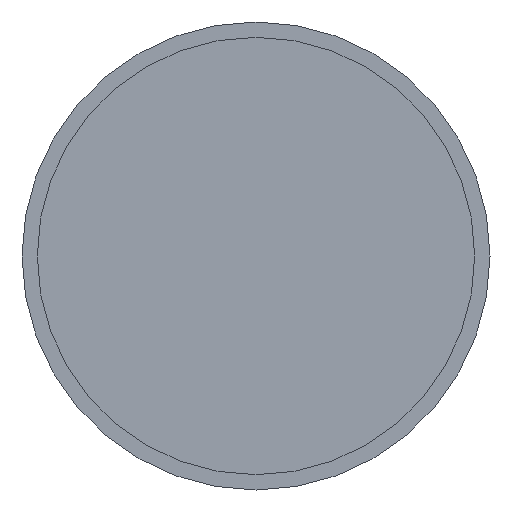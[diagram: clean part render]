
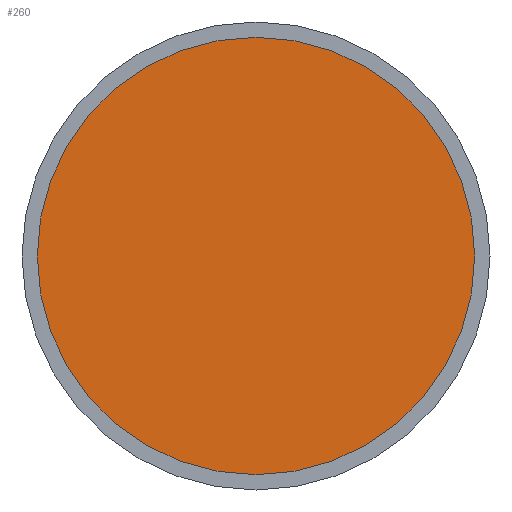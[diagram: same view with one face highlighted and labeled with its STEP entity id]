
A CAD part, front view. The second image highlights one B-rep face of the part: STEP entity #260.
In plain terms, the highlighted planar face has unit normal (0, -1, 0).
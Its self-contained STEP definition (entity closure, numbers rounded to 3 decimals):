
#11 = VERTEX_POINT ( 'NONE', #40 ) ;
#29 = FACE_OUTER_BOUND ( 'NONE', #391, .T. ) ;
#30 = CARTESIAN_POINT ( 'NONE',  ( 0., -58.37, 35.05 ) ) ;
#40 = CARTESIAN_POINT ( 'NONE',  ( 0., -58.37, -35.05 ) ) ;
#66 = DIRECTION ( 'NONE',  ( 0., -1., 0. ) ) ;
#95 = EDGE_CURVE ( 'NONE', #589, #11, #330, .T. ) ;
#166 = EDGE_CURVE ( 'NONE', #11, #589, #174, .T. ) ;
#174 = CIRCLE ( 'NONE', #469, 35.05 ) ;
#206 = AXIS2_PLACEMENT_3D ( 'NONE', #689, #682, #215 ) ;
#215 = DIRECTION ( 'NONE',  ( 0., 0., -1. ) ) ;
#253 = CARTESIAN_POINT ( 'NONE',  ( 0., -58.37, 0. ) ) ;
#260 = ADVANCED_FACE ( 'NONE', ( #29 ), #443, .T. ) ;
#267 = DIRECTION ( 'NONE',  ( 0., -1., 0. ) ) ;
#328 = CARTESIAN_POINT ( 'NONE',  ( 0., -58.37, 0. ) ) ;
#330 = CIRCLE ( 'NONE', #650, 35.05 ) ;
#391 = EDGE_LOOP ( 'NONE', ( #543, #568 ) ) ;
#443 = PLANE ( 'NONE',  #206 ) ;
#469 = AXIS2_PLACEMENT_3D ( 'NONE', #328, #267, #548 ) ;
#543 = ORIENTED_EDGE ( 'NONE', *, *, #95, .T. ) ;
#548 = DIRECTION ( 'NONE',  ( 0., 0., -1. ) ) ;
#568 = ORIENTED_EDGE ( 'NONE', *, *, #166, .T. ) ;
#589 = VERTEX_POINT ( 'NONE', #30 ) ;
#650 = AXIS2_PLACEMENT_3D ( 'NONE', #253, #66, #663 ) ;
#663 = DIRECTION ( 'NONE',  ( 0., 0., -1. ) ) ;
#682 = DIRECTION ( 'NONE',  ( 0., -1., 0. ) ) ;
#689 = CARTESIAN_POINT ( 'NONE',  ( 0., -58.37, 0. ) ) ;
